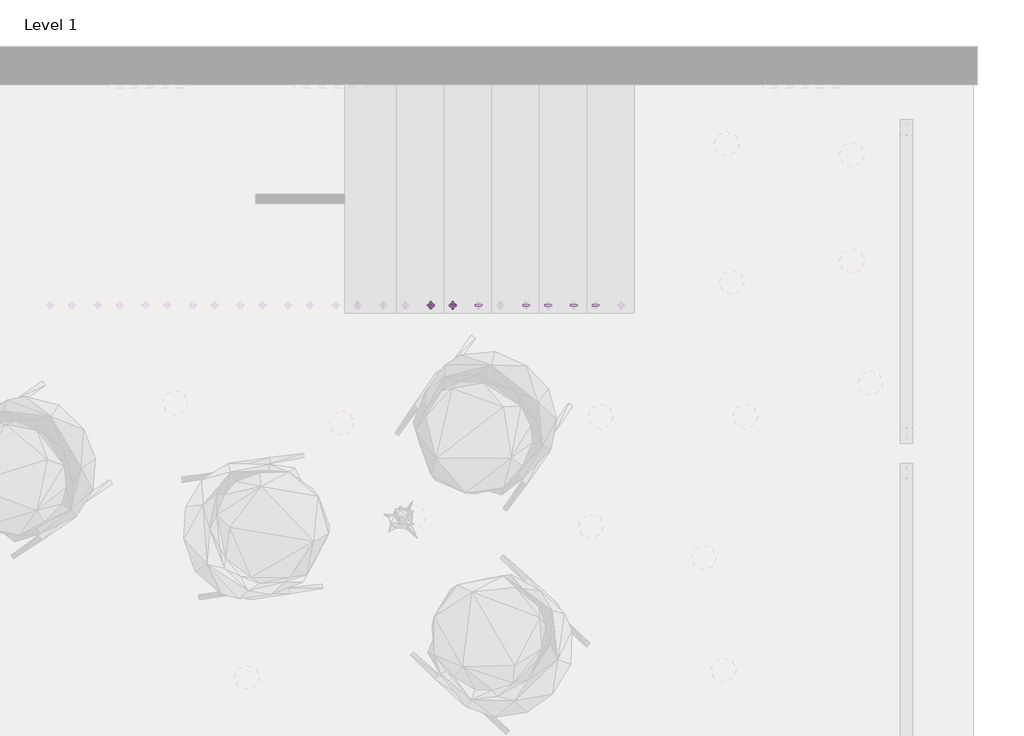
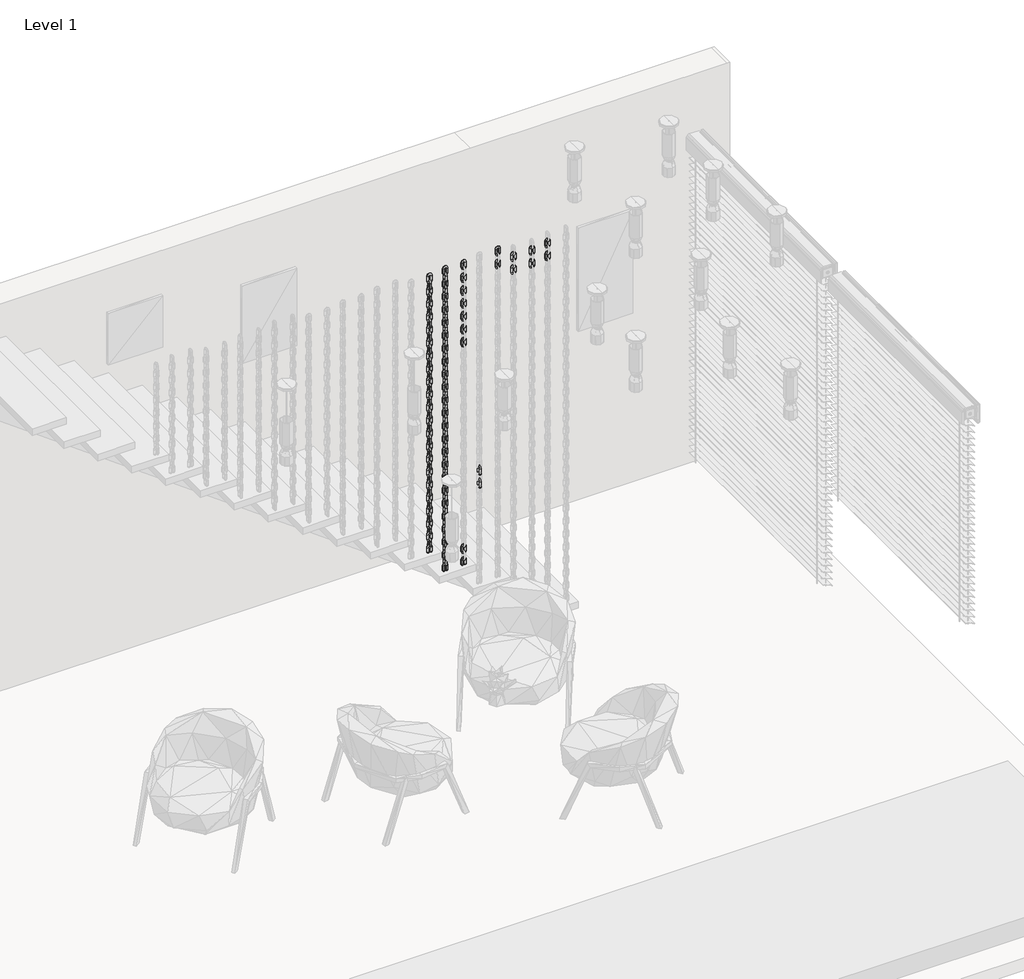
# One storey, part 11 of 12: 109 proxies.
"""IFC4 building model written with IfcOpenShell, lengths in millimetres."""

from ifc_helpers import new_model, si_unit, origin, place, context, project, spatial, transform, mapped, element, save
from components import family1_family1_50133a43, family1_family1_d3af85bb

model = new_model("IFC4")

# Units and contexts
model_context = context("Model", 3, world=origin())
ifc_project = project(units=[si_unit("LENGTHUNIT", "METRE", prefix="MILLI")], contexts=[model_context])

# Site, building, storey
site = spatial("IfcSite", under=ifc_project)
building = spatial("IfcBuilding", under=site)
storey = spatial("IfcBuildingStorey", under=building, Name="Level 1", Elevation=0.0)

# Proxies
placement = place(None, origin())
family1_family1_shape = family1_family1_50133a43(model_context)
element("IfcBuildingElementProxy", 1, Name="Family1 : Family1", ObjectType="Family1 : Family1", at=placement, inside=storey, context=model_context, shape_type="MappedRepresentation", body=[
    mapped(family1_family1_shape, transform((14115.1232124, 1139.760891, 112.244803), x_axis=(-0.03315618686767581, 0.0, 0.9994501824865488), y_axis=(-0.9994501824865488, 0.0, -0.03315618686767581), z_axis=(0.0, -1.0, 0.0))),
])
element("IfcBuildingElementProxy", 2, Name="Family1 : Family1", ObjectType="Family1 : Family1", at=placement, inside=storey, context=model_context, shape_type="MappedRepresentation", body=[
    mapped(family1_family1_shape, transform((14115.1232124, 1139.760891, 212.244803), x_axis=(-0.03315618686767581, 0.0, 0.9994501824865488), y_axis=(-0.9994501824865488, 0.0, -0.03315618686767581), z_axis=(0.0, -1.0, 0.0))),
])
element("IfcBuildingElementProxy", 3, Name="Family1 : Family1", ObjectType="Family1 : Family1", at=placement, inside=storey, context=model_context, shape_type="MappedRepresentation", body=[
    mapped(family1_family1_shape, transform((14115.1232124, 1139.760891, 312.244803), x_axis=(-0.03315618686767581, 0.0, 0.9994501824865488), y_axis=(-0.9994501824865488, 0.0, -0.03315618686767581), z_axis=(0.0, -1.0, 0.0))),
])
element("IfcBuildingElementProxy", 4, Name="Family1 : Family1", ObjectType="Family1 : Family1", at=placement, inside=storey, context=model_context, shape_type="MappedRepresentation", body=[
    mapped(family1_family1_shape, transform((14115.1232124, 1139.760891, 412.244803), x_axis=(-0.03315618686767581, 0.0, 0.9994501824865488), y_axis=(-0.9994501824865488, 0.0, -0.03315618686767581), z_axis=(0.0, -1.0, 0.0))),
])
element("IfcBuildingElementProxy", 5, Name="Family1 : Family1", ObjectType="Family1 : Family1", at=placement, inside=storey, context=model_context, shape_type="MappedRepresentation", body=[
    mapped(family1_family1_shape, transform((14115.1232124, 1139.760891, 512.244803), x_axis=(-0.03315618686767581, 0.0, 0.9994501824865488), y_axis=(-0.9994501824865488, 0.0, -0.03315618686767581), z_axis=(0.0, -1.0, 0.0))),
])
element("IfcBuildingElementProxy", 6, Name="Family1 : Family1", ObjectType="Family1 : Family1", at=placement, inside=storey, context=model_context, shape_type="MappedRepresentation", body=[
    mapped(family1_family1_shape, transform((14115.1232124, 1139.760891, 612.244803), x_axis=(-0.03315618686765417, 0.0, 0.9994501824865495), y_axis=(-0.9994501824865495, 0.0, -0.03315618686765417), z_axis=(0.0, -1.0, 0.0))),
])
element("IfcBuildingElementProxy", 7, Name="Family1 : Family1", ObjectType="Family1 : Family1", at=placement, inside=storey, context=model_context, shape_type="MappedRepresentation", body=[
    mapped(family1_family1_shape, transform((14115.1232124, 1139.760891, 712.244803), x_axis=(-0.03315618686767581, 0.0, 0.9994501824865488), y_axis=(-0.9994501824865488, 0.0, -0.03315618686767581), z_axis=(0.0, -1.0, 0.0))),
])
element("IfcBuildingElementProxy", 8, Name="Family1 : Family1", ObjectType="Family1 : Family1", at=placement, inside=storey, context=model_context, shape_type="MappedRepresentation", body=[
    mapped(family1_family1_shape, transform((14115.1232124, 1139.760891, 812.244803), x_axis=(-0.03315618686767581, 0.0, 0.9994501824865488), y_axis=(-0.9994501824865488, 0.0, -0.03315618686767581), z_axis=(0.0, -1.0, 0.0))),
])
element("IfcBuildingElementProxy", 9, Name="Family1 : Family1", ObjectType="Family1 : Family1", at=placement, inside=storey, context=model_context, shape_type="MappedRepresentation", body=[
    mapped(family1_family1_shape, transform((14115.1232124, 1139.760891, 912.244803), x_axis=(-0.03315618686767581, 0.0, 0.9994501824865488), y_axis=(-0.9994501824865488, 0.0, -0.03315618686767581), z_axis=(0.0, -1.0, 0.0))),
])
element("IfcBuildingElementProxy", 10, Name="Family1 : Family1", ObjectType="Family1 : Family1", at=placement, inside=storey, context=model_context, shape_type="MappedRepresentation", body=[
    mapped(family1_family1_shape, transform((14115.1232124, 1139.760891, 1012.244803), x_axis=(-0.03315618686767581, 0.0, 0.9994501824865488), y_axis=(-0.9994501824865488, 0.0, -0.03315618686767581), z_axis=(0.0, -1.0, 0.0))),
])
element("IfcBuildingElementProxy", 11, Name="Family1 : Family1", ObjectType="Family1 : Family1", at=placement, inside=storey, context=model_context, shape_type="MappedRepresentation", body=[
    mapped(family1_family1_shape, transform((14115.1232124, 1139.760891, 12.244803), x_axis=(-0.03315618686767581, 0.0, 0.9994501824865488), y_axis=(-0.9994501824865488, 0.0, -0.03315618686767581), z_axis=(0.0, -1.0, 0.0))),
])
element("IfcBuildingElementProxy", 12, Name="Family1 : Family1", ObjectType="Family1 : Family1", at=placement, inside=storey, context=model_context, shape_type="MappedRepresentation", body=[
    mapped(family1_family1_shape, transform((14115.1232124, 1139.760891, -87.755197), x_axis=(-0.03315618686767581, 0.0, 0.9994501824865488), y_axis=(-0.9994501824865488, 0.0, -0.03315618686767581), z_axis=(0.0, -1.0, 0.0))),
])
element("IfcBuildingElementProxy", 13, Name="Family1 : Family1", ObjectType="Family1 : Family1", at=placement, inside=storey, context=model_context, shape_type="MappedRepresentation", body=[
    mapped(family1_family1_shape, transform((14115.1232124, 1139.760891, -187.755197), x_axis=(-0.03315618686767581, 0.0, 0.9994501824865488), y_axis=(-0.9994501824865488, 0.0, -0.03315618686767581), z_axis=(0.0, -1.0, 0.0))),
])
element("IfcBuildingElementProxy", 14, Name="Family1 : Family1", ObjectType="Family1 : Family1", at=placement, inside=storey, context=model_context, shape_type="MappedRepresentation", body=[
    mapped(family1_family1_shape, transform((14115.1232124, 1139.760891, -287.755197), x_axis=(-0.03315618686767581, 0.0, 0.9994501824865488), y_axis=(-0.9994501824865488, 0.0, -0.03315618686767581), z_axis=(0.0, -1.0, 0.0))),
])
element("IfcBuildingElementProxy", 15, Name="Family1 : Family1", ObjectType="Family1 : Family1", at=placement, inside=storey, context=model_context, shape_type="MappedRepresentation", body=[
    mapped(family1_family1_shape, transform((14115.1232124, 1139.760891, -387.755197), x_axis=(-0.03315618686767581, 0.0, 0.9994501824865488), y_axis=(-0.9994501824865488, 0.0, -0.03315618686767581), z_axis=(0.0, -1.0, 0.0))),
])
element("IfcBuildingElementProxy", 16, Name="Family1 : Family1", ObjectType="Family1 : Family1", at=placement, inside=storey, context=model_context, shape_type="MappedRepresentation", body=[
    mapped(family1_family1_shape, transform((14115.1232124, 1139.760891, -487.755197), x_axis=(-0.03315618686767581, 0.0, 0.9994501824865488), y_axis=(-0.9994501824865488, 0.0, -0.03315618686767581), z_axis=(0.0, -1.0, 0.0))),
])
element("IfcBuildingElementProxy", 17, Name="Family1 : Family1", ObjectType="Family1 : Family1", at=placement, inside=storey, context=model_context, shape_type="MappedRepresentation", body=[
    mapped(family1_family1_shape, transform((14115.1232124, 1139.760891, 1112.244803), x_axis=(-0.03315618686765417, 0.0, 0.9994501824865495), y_axis=(-0.9994501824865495, 0.0, -0.03315618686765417), z_axis=(0.0, -1.0, 0.0))),
])
element("IfcBuildingElementProxy", 18, Name="Family1 : Family1", ObjectType="Family1 : Family1", at=placement, inside=storey, context=model_context, shape_type="MappedRepresentation", body=[
    mapped(family1_family1_shape, transform((14115.1232124, 1139.760891, 1212.244803), x_axis=(-0.03315618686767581, 0.0, 0.9994501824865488), y_axis=(-0.9994501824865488, 0.0, -0.03315618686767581), z_axis=(0.0, -1.0, 0.0))),
])
element("IfcBuildingElementProxy", 19, Name="Family1 : Family1", ObjectType="Family1 : Family1", at=placement, inside=storey, context=model_context, shape_type="MappedRepresentation", body=[
    mapped(family1_family1_shape, transform((14115.1232124, 1139.760891, 1312.244803), x_axis=(-0.03315618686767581, 0.0, 0.9994501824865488), y_axis=(-0.9994501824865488, 0.0, -0.03315618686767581), z_axis=(0.0, -1.0, 0.0))),
])
element("IfcBuildingElementProxy", 20, Name="Family1 : Family1", ObjectType="Family1 : Family1", at=placement, inside=storey, context=model_context, shape_type="MappedRepresentation", body=[
    mapped(family1_family1_shape, transform((14115.1232124, 1139.760891, 1412.244803), x_axis=(-0.03315618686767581, 0.0, 0.9994501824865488), y_axis=(-0.9994501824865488, 0.0, -0.03315618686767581), z_axis=(0.0, -1.0, 0.0))),
])
element("IfcBuildingElementProxy", 21, Name="Family1 : Family1", ObjectType="Family1 : Family1", at=placement, inside=storey, context=model_context, shape_type="MappedRepresentation", body=[
    mapped(family1_family1_shape, transform((14115.1232124, 1139.760891, 1512.244803), x_axis=(-0.03315618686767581, 0.0, 0.9994501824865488), y_axis=(-0.9994501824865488, 0.0, -0.03315618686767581), z_axis=(0.0, -1.0, 0.0))),
])
element("IfcBuildingElementProxy", 22, Name="Family1 : Family1", ObjectType="Family1 : Family1", at=placement, inside=storey, context=model_context, shape_type="MappedRepresentation", body=[
    mapped(family1_family1_shape, transform((14115.1232124, 1139.760891, 1612.244803), x_axis=(-0.03315618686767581, 0.0, 0.9994501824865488), y_axis=(-0.9994501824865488, 0.0, -0.03315618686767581), z_axis=(0.0, -1.0, 0.0))),
])
element("IfcBuildingElementProxy", 23, Name="Family1 : Family1", ObjectType="Family1 : Family1", at=placement, inside=storey, context=model_context, shape_type="MappedRepresentation", body=[
    mapped(family1_family1_shape, transform((14115.1232124, 1139.760891, 1712.244803), x_axis=(-0.03315618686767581, 0.0, 0.9994501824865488), y_axis=(-0.9994501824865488, 0.0, -0.03315618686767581), z_axis=(0.0, -1.0, 0.0))),
])
element("IfcBuildingElementProxy", 24, Name="Family1 : Family1", ObjectType="Family1 : Family1", at=placement, inside=storey, context=model_context, shape_type="MappedRepresentation", body=[
    mapped(family1_family1_shape, transform((14000.1232124, 1139.760891, 194.5977442), x_axis=(-0.033156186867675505, 0.0, 0.9994501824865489), y_axis=(-0.9994501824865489, 0.0, -0.033156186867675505), z_axis=(0.0, -1.0, 0.0))),
])
element("IfcBuildingElementProxy", 25, Name="Family1 : Family1", ObjectType="Family1 : Family1", at=placement, inside=storey, context=model_context, shape_type="MappedRepresentation", body=[
    mapped(family1_family1_shape, transform((14000.1232124, 1139.760891, 294.5977442), x_axis=(-0.03315618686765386, 0.0, 0.9994501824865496), y_axis=(-0.9994501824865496, 0.0, -0.03315618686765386), z_axis=(0.0, -1.0, 0.0))),
])
element("IfcBuildingElementProxy", 26, Name="Family1 : Family1", ObjectType="Family1 : Family1", at=placement, inside=storey, context=model_context, shape_type="MappedRepresentation", body=[
    mapped(family1_family1_shape, transform((14000.1232124, 1139.760891, 394.5977442), x_axis=(-0.033156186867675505, 0.0, 0.9994501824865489), y_axis=(-0.9994501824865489, 0.0, -0.033156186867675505), z_axis=(0.0, -1.0, 0.0))),
])
element("IfcBuildingElementProxy", 27, Name="Family1 : Family1", ObjectType="Family1 : Family1", at=placement, inside=storey, context=model_context, shape_type="MappedRepresentation", body=[
    mapped(family1_family1_shape, transform((14000.1232124, 1139.760891, 494.5977442), x_axis=(-0.033156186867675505, 0.0, 0.9994501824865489), y_axis=(-0.9994501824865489, 0.0, -0.033156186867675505), z_axis=(0.0, -1.0, 0.0))),
])
element("IfcBuildingElementProxy", 28, Name="Family1 : Family1", ObjectType="Family1 : Family1", at=placement, inside=storey, context=model_context, shape_type="MappedRepresentation", body=[
    mapped(family1_family1_shape, transform((14000.1232124, 1139.760891, 594.5977442), x_axis=(-0.033156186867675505, 0.0, 0.9994501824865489), y_axis=(-0.9994501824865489, 0.0, -0.033156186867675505), z_axis=(0.0, -1.0, 0.0))),
])
element("IfcBuildingElementProxy", 29, Name="Family1 : Family1", ObjectType="Family1 : Family1", at=placement, inside=storey, context=model_context, shape_type="MappedRepresentation", body=[
    mapped(family1_family1_shape, transform((14000.1232124, 1139.760891, 694.5977442), x_axis=(-0.03315618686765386, 0.0, 0.9994501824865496), y_axis=(-0.9994501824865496, 0.0, -0.03315618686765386), z_axis=(0.0, -1.0, 0.0))),
])
element("IfcBuildingElementProxy", 30, Name="Family1 : Family1", ObjectType="Family1 : Family1", at=placement, inside=storey, context=model_context, shape_type="MappedRepresentation", body=[
    mapped(family1_family1_shape, transform((14000.1232124, 1139.760891, 794.5977442), x_axis=(-0.033156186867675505, 0.0, 0.9994501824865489), y_axis=(-0.9994501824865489, 0.0, -0.033156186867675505), z_axis=(0.0, -1.0, 0.0))),
])
element("IfcBuildingElementProxy", 31, Name="Family1 : Family1", ObjectType="Family1 : Family1", at=placement, inside=storey, context=model_context, shape_type="MappedRepresentation", body=[
    mapped(family1_family1_shape, transform((14000.1232124, 1139.760891, 894.5977442), x_axis=(-0.033156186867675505, 0.0, 0.9994501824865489), y_axis=(-0.9994501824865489, 0.0, -0.033156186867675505), z_axis=(0.0, -1.0, 0.0))),
])
element("IfcBuildingElementProxy", 32, Name="Family1 : Family1", ObjectType="Family1 : Family1", at=placement, inside=storey, context=model_context, shape_type="MappedRepresentation", body=[
    mapped(family1_family1_shape, transform((14000.1232124, 1139.760891, 994.5977442), x_axis=(-0.033156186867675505, 0.0, 0.9994501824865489), y_axis=(-0.9994501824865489, 0.0, -0.033156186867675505), z_axis=(0.0, -1.0, 0.0))),
])
element("IfcBuildingElementProxy", 33, Name="Family1 : Family1", ObjectType="Family1 : Family1", at=placement, inside=storey, context=model_context, shape_type="MappedRepresentation", body=[
    mapped(family1_family1_shape, transform((14000.1232124, 1139.760891, 1094.5977442), x_axis=(-0.033156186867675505, 0.0, 0.9994501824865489), y_axis=(-0.9994501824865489, 0.0, -0.033156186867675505), z_axis=(0.0, -1.0, 0.0))),
])
element("IfcBuildingElementProxy", 34, Name="Family1 : Family1", ObjectType="Family1 : Family1", at=placement, inside=storey, context=model_context, shape_type="MappedRepresentation", body=[
    mapped(family1_family1_shape, transform((14000.1232124, 1139.760891, 94.5977442), x_axis=(-0.033156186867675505, 0.0, 0.9994501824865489), y_axis=(-0.9994501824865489, 0.0, -0.033156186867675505), z_axis=(0.0, -1.0, 0.0))),
])
element("IfcBuildingElementProxy", 35, Name="Family1 : Family1", ObjectType="Family1 : Family1", at=placement, inside=storey, context=model_context, shape_type="MappedRepresentation", body=[
    mapped(family1_family1_shape, transform((14000.1232124, 1139.760891, -5.4022558), x_axis=(-0.033156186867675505, 0.0, 0.9994501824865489), y_axis=(-0.9994501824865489, 0.0, -0.033156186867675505), z_axis=(0.0, -1.0, 0.0))),
])
element("IfcBuildingElementProxy", 36, Name="Family1 : Family1", ObjectType="Family1 : Family1", at=placement, inside=storey, context=model_context, shape_type="MappedRepresentation", body=[
    mapped(family1_family1_shape, transform((14000.1232124, 1139.760891, -105.4022558), x_axis=(-0.033156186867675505, 0.0, 0.9994501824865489), y_axis=(-0.9994501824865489, 0.0, -0.033156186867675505), z_axis=(0.0, -1.0, 0.0))),
])
element("IfcBuildingElementProxy", 37, Name="Family1 : Family1", ObjectType="Family1 : Family1", at=placement, inside=storey, context=model_context, shape_type="MappedRepresentation", body=[
    mapped(family1_family1_shape, transform((14000.1232124, 1139.760891, -205.4022558), x_axis=(-0.033156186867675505, 0.0, 0.9994501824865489), y_axis=(-0.9994501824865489, 0.0, -0.033156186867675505), z_axis=(0.0, -1.0, 0.0))),
])
element("IfcBuildingElementProxy", 38, Name="Family1 : Family1", ObjectType="Family1 : Family1", at=placement, inside=storey, context=model_context, shape_type="MappedRepresentation", body=[
    mapped(family1_family1_shape, transform((14000.1232124, 1139.760891, -305.4022558), x_axis=(-0.033156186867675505, 0.0, 0.9994501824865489), y_axis=(-0.9994501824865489, 0.0, -0.033156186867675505), z_axis=(0.0, -1.0, 0.0))),
])
element("IfcBuildingElementProxy", 39, Name="Family1 : Family1", ObjectType="Family1 : Family1", at=placement, inside=storey, context=model_context, shape_type="MappedRepresentation", body=[
    mapped(family1_family1_shape, transform((14000.1232124, 1139.760891, 1194.5977442), x_axis=(-0.033156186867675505, 0.0, 0.9994501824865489), y_axis=(-0.9994501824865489, 0.0, -0.033156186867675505), z_axis=(0.0, -1.0, 0.0))),
])
element("IfcBuildingElementProxy", 40, Name="Family1 : Family1", ObjectType="Family1 : Family1", at=placement, inside=storey, context=model_context, shape_type="MappedRepresentation", body=[
    mapped(family1_family1_shape, transform((14000.1232124, 1139.760891, 1294.5977442), x_axis=(-0.033156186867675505, 0.0, 0.9994501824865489), y_axis=(-0.9994501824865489, 0.0, -0.033156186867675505), z_axis=(0.0, -1.0, 0.0))),
])
element("IfcBuildingElementProxy", 41, Name="Family1 : Family1", ObjectType="Family1 : Family1", at=placement, inside=storey, context=model_context, shape_type="MappedRepresentation", body=[
    mapped(family1_family1_shape, transform((14000.1232124, 1139.760891, 1394.5977442), x_axis=(-0.033156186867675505, 0.0, 0.9994501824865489), y_axis=(-0.9994501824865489, 0.0, -0.033156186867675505), z_axis=(0.0, -1.0, 0.0))),
])
element("IfcBuildingElementProxy", 42, Name="Family1 : Family1", ObjectType="Family1 : Family1", at=placement, inside=storey, context=model_context, shape_type="MappedRepresentation", body=[
    mapped(family1_family1_shape, transform((14000.1232124, 1139.760891, 1494.5977442), x_axis=(-0.033156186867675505, 0.0, 0.9994501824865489), y_axis=(-0.9994501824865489, 0.0, -0.033156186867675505), z_axis=(0.0, -1.0, 0.0))),
])
element("IfcBuildingElementProxy", 43, Name="Family1 : Family1", ObjectType="Family1 : Family1", at=placement, inside=storey, context=model_context, shape_type="MappedRepresentation", body=[
    mapped(family1_family1_shape, transform((14000.1232124, 1139.760891, 1594.5977442), x_axis=(-0.03315618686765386, 0.0, 0.9994501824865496), y_axis=(-0.9994501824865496, 0.0, -0.03315618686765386), z_axis=(0.0, -1.0, 0.0))),
])
element("IfcBuildingElementProxy", 44, Name="Family1 : Family1", ObjectType="Family1 : Family1", at=placement, inside=storey, context=model_context, shape_type="MappedRepresentation", body=[
    mapped(family1_family1_shape, transform((14000.1232124, 1139.760891, 1694.5977442), x_axis=(-0.033156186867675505, 0.0, 0.9994501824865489), y_axis=(-0.9994501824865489, 0.0, -0.033156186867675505), z_axis=(0.0, -1.0, 0.0))),
])
element("IfcBuildingElementProxy", 45, Name="Family1 : Family1", ObjectType="Family1 : Family1", at=placement, inside=storey, context=model_context, shape_type="MappedRepresentation", body=[
    mapped(family1_family1_shape, transform((14365.1232124, 1139.760891, 29.8918618), x_axis=(-0.033156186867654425, 0.0, 0.9994501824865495), y_axis=(-0.9994501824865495, 0.0, -0.033156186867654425), z_axis=(0.0, -1.0, 0.0))),
])
element("IfcBuildingElementProxy", 46, Name="Family1 : Family1", ObjectType="Family1 : Family1", at=placement, inside=storey, context=model_context, shape_type="MappedRepresentation", body=[
    mapped(family1_family1_shape, transform((14365.1232124, 1139.760891, 129.8918618), x_axis=(-0.03315618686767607, 0.0, 0.9994501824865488), y_axis=(-0.9994501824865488, 0.0, -0.03315618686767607), z_axis=(0.0, -1.0, 0.0))),
])
family1_family1_2_shape = family1_family1_d3af85bb(model_context)
element("IfcBuildingElementProxy", 47, Name="Family1 : Family1", ObjectType="Family1 : Family1", at=placement, inside=storey, context=model_context, shape_type="MappedRepresentation", body=[
    mapped(family1_family1_2_shape, transform((14250.1232124, 1139.760891, -437.755197), x_axis=(-0.03315618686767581, 0.0, 0.9994501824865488), y_axis=(-0.9994501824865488, 0.0, -0.03315618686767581), z_axis=(0.0, -1.0, 0.0))),
])
element("IfcBuildingElementProxy", 48, Name="Family1 : Family1", ObjectType="Family1 : Family1", at=placement, inside=storey, context=model_context, shape_type="MappedRepresentation", body=[
    mapped(family1_family1_2_shape, transform((14250.1232124, 1139.760891, -537.755197), x_axis=(-0.03315618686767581, 0.0, 0.9994501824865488), y_axis=(-0.9994501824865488, 0.0, -0.03315618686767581), z_axis=(0.0, -1.0, 0.0))),
])
element("IfcBuildingElementProxy", 49, Name="Family1 : Family1", ObjectType="Family1 : Family1", at=placement, inside=storey, context=model_context, shape_type="MappedRepresentation", body=[
    mapped(family1_family1_2_shape, transform((14250.1232124, 1139.760891, 1162.244803), x_axis=(-0.03315618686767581, 0.0, 0.9994501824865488), y_axis=(-0.9994501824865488, 0.0, -0.03315618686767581), z_axis=(0.0, -1.0, 0.0))),
])
element("IfcBuildingElementProxy", 50, Name="Family1 : Family1", ObjectType="Family1 : Family1", at=placement, inside=storey, context=model_context, shape_type="MappedRepresentation", body=[
    mapped(family1_family1_2_shape, transform((14250.1232124, 1139.760891, 1262.244803), x_axis=(-0.03315618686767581, 0.0, 0.9994501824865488), y_axis=(-0.9994501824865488, 0.0, -0.03315618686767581), z_axis=(0.0, -1.0, 0.0))),
])
element("IfcBuildingElementProxy", 51, Name="Family1 : Family1", ObjectType="Family1 : Family1", at=placement, inside=storey, context=model_context, shape_type="MappedRepresentation", body=[
    mapped(family1_family1_2_shape, transform((14250.1232124, 1139.760891, 1362.244803), x_axis=(-0.03315618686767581, 0.0, 0.9994501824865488), y_axis=(-0.9994501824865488, 0.0, -0.03315618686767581), z_axis=(0.0, -1.0, 0.0))),
])
element("IfcBuildingElementProxy", 52, Name="Family1 : Family1", ObjectType="Family1 : Family1", at=placement, inside=storey, context=model_context, shape_type="MappedRepresentation", body=[
    mapped(family1_family1_2_shape, transform((14250.1232124, 1139.760891, 1462.244803), x_axis=(-0.03315618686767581, 0.0, 0.9994501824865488), y_axis=(-0.9994501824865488, 0.0, -0.03315618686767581), z_axis=(0.0, -1.0, 0.0))),
])
element("IfcBuildingElementProxy", 53, Name="Family1 : Family1", ObjectType="Family1 : Family1", at=placement, inside=storey, context=model_context, shape_type="MappedRepresentation", body=[
    mapped(family1_family1_2_shape, transform((14250.1232124, 1139.760891, 1562.244803), x_axis=(-0.03315618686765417, 0.0, 0.9994501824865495), y_axis=(-0.9994501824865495, 0.0, -0.03315618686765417), z_axis=(0.0, -1.0, 0.0))),
])
element("IfcBuildingElementProxy", 54, Name="Family1 : Family1", ObjectType="Family1 : Family1", at=placement, inside=storey, context=model_context, shape_type="MappedRepresentation", body=[
    mapped(family1_family1_2_shape, transform((14115.1232124, 1139.760891, 162.244803), x_axis=(-0.03315618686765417, 0.0, 0.9994501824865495), y_axis=(-0.9994501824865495, 0.0, -0.03315618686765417), z_axis=(0.0, -1.0, 0.0))),
])
element("IfcBuildingElementProxy", 55, Name="Family1 : Family1", ObjectType="Family1 : Family1", at=placement, inside=storey, context=model_context, shape_type="MappedRepresentation", body=[
    mapped(family1_family1_2_shape, transform((14115.1232124, 1139.760891, 262.244803), x_axis=(-0.03315618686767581, 0.0, 0.9994501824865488), y_axis=(-0.9994501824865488, 0.0, -0.03315618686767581), z_axis=(0.0, -1.0, 0.0))),
])
element("IfcBuildingElementProxy", 56, Name="Family1 : Family1", ObjectType="Family1 : Family1", at=placement, inside=storey, context=model_context, shape_type="MappedRepresentation", body=[
    mapped(family1_family1_2_shape, transform((14115.1232124, 1139.760891, 362.244803), x_axis=(-0.03315618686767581, 0.0, 0.9994501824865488), y_axis=(-0.9994501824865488, 0.0, -0.03315618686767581), z_axis=(0.0, -1.0, 0.0))),
])
element("IfcBuildingElementProxy", 57, Name="Family1 : Family1", ObjectType="Family1 : Family1", at=placement, inside=storey, context=model_context, shape_type="MappedRepresentation", body=[
    mapped(family1_family1_2_shape, transform((14115.1232124, 1139.760891, 462.244803), x_axis=(-0.03315618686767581, 0.0, 0.9994501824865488), y_axis=(-0.9994501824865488, 0.0, -0.03315618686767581), z_axis=(0.0, -1.0, 0.0))),
])
element("IfcBuildingElementProxy", 58, Name="Family1 : Family1", ObjectType="Family1 : Family1", at=placement, inside=storey, context=model_context, shape_type="MappedRepresentation", body=[
    mapped(family1_family1_2_shape, transform((14115.1232124, 1139.760891, 562.244803), x_axis=(-0.03315618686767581, 0.0, 0.9994501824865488), y_axis=(-0.9994501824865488, 0.0, -0.03315618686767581), z_axis=(0.0, -1.0, 0.0))),
])
element("IfcBuildingElementProxy", 59, Name="Family1 : Family1", ObjectType="Family1 : Family1", at=placement, inside=storey, context=model_context, shape_type="MappedRepresentation", body=[
    mapped(family1_family1_2_shape, transform((14115.1232124, 1139.760891, 662.244803), x_axis=(-0.03315618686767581, 0.0, 0.9994501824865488), y_axis=(-0.9994501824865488, 0.0, -0.03315618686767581), z_axis=(0.0, -1.0, 0.0))),
])
element("IfcBuildingElementProxy", 60, Name="Family1 : Family1", ObjectType="Family1 : Family1", at=placement, inside=storey, context=model_context, shape_type="MappedRepresentation", body=[
    mapped(family1_family1_2_shape, transform((14115.1232124, 1139.760891, 762.244803), x_axis=(-0.03315618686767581, 0.0, 0.9994501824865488), y_axis=(-0.9994501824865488, 0.0, -0.03315618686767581), z_axis=(0.0, -1.0, 0.0))),
])
element("IfcBuildingElementProxy", 61, Name="Family1 : Family1", ObjectType="Family1 : Family1", at=placement, inside=storey, context=model_context, shape_type="MappedRepresentation", body=[
    mapped(family1_family1_2_shape, transform((14115.1232124, 1139.760891, 862.244803), x_axis=(-0.03315618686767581, 0.0, 0.9994501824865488), y_axis=(-0.9994501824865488, 0.0, -0.03315618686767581), z_axis=(0.0, -1.0, 0.0))),
])
element("IfcBuildingElementProxy", 62, Name="Family1 : Family1", ObjectType="Family1 : Family1", at=placement, inside=storey, context=model_context, shape_type="MappedRepresentation", body=[
    mapped(family1_family1_2_shape, transform((14115.1232124, 1139.760891, 962.244803), x_axis=(-0.03315618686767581, 0.0, 0.9994501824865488), y_axis=(-0.9994501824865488, 0.0, -0.03315618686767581), z_axis=(0.0, -1.0, 0.0))),
])
element("IfcBuildingElementProxy", 63, Name="Family1 : Family1", ObjectType="Family1 : Family1", at=placement, inside=storey, context=model_context, shape_type="MappedRepresentation", body=[
    mapped(family1_family1_2_shape, transform((14115.1232124, 1139.760891, 1062.244803), x_axis=(-0.03315618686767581, 0.0, 0.9994501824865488), y_axis=(-0.9994501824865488, 0.0, -0.03315618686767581), z_axis=(0.0, -1.0, 0.0))),
])
element("IfcBuildingElementProxy", 64, Name="Family1 : Family1", ObjectType="Family1 : Family1", at=placement, inside=storey, context=model_context, shape_type="MappedRepresentation", body=[
    mapped(family1_family1_2_shape, transform((14115.1232124, 1139.760891, 62.244803), x_axis=(-0.03315618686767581, 0.0, 0.9994501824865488), y_axis=(-0.9994501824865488, 0.0, -0.03315618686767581), z_axis=(0.0, -1.0, 0.0))),
])
element("IfcBuildingElementProxy", 65, Name="Family1 : Family1", ObjectType="Family1 : Family1", at=placement, inside=storey, context=model_context, shape_type="MappedRepresentation", body=[
    mapped(family1_family1_2_shape, transform((14115.1232124, 1139.760891, -37.755197), x_axis=(-0.03315618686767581, 0.0, 0.9994501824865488), y_axis=(-0.9994501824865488, 0.0, -0.03315618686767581), z_axis=(0.0, -1.0, 0.0))),
])
element("IfcBuildingElementProxy", 66, Name="Family1 : Family1", ObjectType="Family1 : Family1", at=placement, inside=storey, context=model_context, shape_type="MappedRepresentation", body=[
    mapped(family1_family1_2_shape, transform((14115.1232124, 1139.760891, -137.755197), x_axis=(-0.03315618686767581, 0.0, 0.9994501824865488), y_axis=(-0.9994501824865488, 0.0, -0.03315618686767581), z_axis=(0.0, -1.0, 0.0))),
])
element("IfcBuildingElementProxy", 67, Name="Family1 : Family1", ObjectType="Family1 : Family1", at=placement, inside=storey, context=model_context, shape_type="MappedRepresentation", body=[
    mapped(family1_family1_2_shape, transform((14115.1232124, 1139.760891, -237.755197), x_axis=(-0.03315618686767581, 0.0, 0.9994501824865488), y_axis=(-0.9994501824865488, 0.0, -0.03315618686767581), z_axis=(0.0, -1.0, 0.0))),
])
element("IfcBuildingElementProxy", 68, Name="Family1 : Family1", ObjectType="Family1 : Family1", at=placement, inside=storey, context=model_context, shape_type="MappedRepresentation", body=[
    mapped(family1_family1_2_shape, transform((14115.1232124, 1139.760891, -337.755197), x_axis=(-0.03315618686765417, 0.0, 0.9994501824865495), y_axis=(-0.9994501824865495, 0.0, -0.03315618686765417), z_axis=(0.0, -1.0, 0.0))),
])
element("IfcBuildingElementProxy", 69, Name="Family1 : Family1", ObjectType="Family1 : Family1", at=placement, inside=storey, context=model_context, shape_type="MappedRepresentation", body=[
    mapped(family1_family1_2_shape, transform((14115.1232124, 1139.760891, -437.755197), x_axis=(-0.03315618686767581, 0.0, 0.9994501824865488), y_axis=(-0.9994501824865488, 0.0, -0.03315618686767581), z_axis=(0.0, -1.0, 0.0))),
])
element("IfcBuildingElementProxy", 70, Name="Family1 : Family1", ObjectType="Family1 : Family1", at=placement, inside=storey, context=model_context, shape_type="MappedRepresentation", body=[
    mapped(family1_family1_2_shape, transform((14115.1232124, 1139.760891, -537.755197), x_axis=(-0.03315618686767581, 0.0, 0.9994501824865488), y_axis=(-0.9994501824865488, 0.0, -0.03315618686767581), z_axis=(0.0, -1.0, 0.0))),
])
element("IfcBuildingElementProxy", 71, Name="Family1 : Family1", ObjectType="Family1 : Family1", at=placement, inside=storey, context=model_context, shape_type="MappedRepresentation", body=[
    mapped(family1_family1_2_shape, transform((14115.1232124, 1139.760891, 1162.244803), x_axis=(-0.03315618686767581, 0.0, 0.9994501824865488), y_axis=(-0.9994501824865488, 0.0, -0.03315618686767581), z_axis=(0.0, -1.0, 0.0))),
])
element("IfcBuildingElementProxy", 72, Name="Family1 : Family1", ObjectType="Family1 : Family1", at=placement, inside=storey, context=model_context, shape_type="MappedRepresentation", body=[
    mapped(family1_family1_2_shape, transform((14115.1232124, 1139.760891, 1262.244803), x_axis=(-0.03315618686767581, 0.0, 0.9994501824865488), y_axis=(-0.9994501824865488, 0.0, -0.03315618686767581), z_axis=(0.0, -1.0, 0.0))),
])
element("IfcBuildingElementProxy", 73, Name="Family1 : Family1", ObjectType="Family1 : Family1", at=placement, inside=storey, context=model_context, shape_type="MappedRepresentation", body=[
    mapped(family1_family1_2_shape, transform((14115.1232124, 1139.760891, 1362.244803), x_axis=(-0.03315618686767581, 0.0, 0.9994501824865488), y_axis=(-0.9994501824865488, 0.0, -0.03315618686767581), z_axis=(0.0, -1.0, 0.0))),
])
element("IfcBuildingElementProxy", 74, Name="Family1 : Family1", ObjectType="Family1 : Family1", at=placement, inside=storey, context=model_context, shape_type="MappedRepresentation", body=[
    mapped(family1_family1_2_shape, transform((14115.1232124, 1139.760891, 1462.244803), x_axis=(-0.03315618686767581, 0.0, 0.9994501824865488), y_axis=(-0.9994501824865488, 0.0, -0.03315618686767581), z_axis=(0.0, -1.0, 0.0))),
])
element("IfcBuildingElementProxy", 75, Name="Family1 : Family1", ObjectType="Family1 : Family1", at=placement, inside=storey, context=model_context, shape_type="MappedRepresentation", body=[
    mapped(family1_family1_2_shape, transform((14115.1232124, 1139.760891, 1562.244803), x_axis=(-0.03315618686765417, 0.0, 0.9994501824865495), y_axis=(-0.9994501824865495, 0.0, -0.03315618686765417), z_axis=(0.0, -1.0, 0.0))),
])
element("IfcBuildingElementProxy", 76, Name="Family1 : Family1", ObjectType="Family1 : Family1", at=placement, inside=storey, context=model_context, shape_type="MappedRepresentation", body=[
    mapped(family1_family1_2_shape, transform((14000.1232124, 1139.760891, 244.5977442), x_axis=(-0.033156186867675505, 0.0, 0.9994501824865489), y_axis=(-0.9994501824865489, 0.0, -0.033156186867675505), z_axis=(0.0, -1.0, 0.0))),
])
element("IfcBuildingElementProxy", 77, Name="Family1 : Family1", ObjectType="Family1 : Family1", at=placement, inside=storey, context=model_context, shape_type="MappedRepresentation", body=[
    mapped(family1_family1_2_shape, transform((14000.1232124, 1139.760891, 344.5977442), x_axis=(-0.033156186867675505, 0.0, 0.9994501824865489), y_axis=(-0.9994501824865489, 0.0, -0.033156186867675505), z_axis=(0.0, -1.0, 0.0))),
])
element("IfcBuildingElementProxy", 78, Name="Family1 : Family1", ObjectType="Family1 : Family1", at=placement, inside=storey, context=model_context, shape_type="MappedRepresentation", body=[
    mapped(family1_family1_2_shape, transform((14000.1232124, 1139.760891, 444.5977442), x_axis=(-0.033156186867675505, 0.0, 0.9994501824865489), y_axis=(-0.9994501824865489, 0.0, -0.033156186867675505), z_axis=(0.0, -1.0, 0.0))),
])
element("IfcBuildingElementProxy", 79, Name="Family1 : Family1", ObjectType="Family1 : Family1", at=placement, inside=storey, context=model_context, shape_type="MappedRepresentation", body=[
    mapped(family1_family1_2_shape, transform((14000.1232124, 1139.760891, 544.5977442), x_axis=(-0.033156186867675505, 0.0, 0.9994501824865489), y_axis=(-0.9994501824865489, 0.0, -0.033156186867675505), z_axis=(0.0, -1.0, 0.0))),
])
element("IfcBuildingElementProxy", 80, Name="Family1 : Family1", ObjectType="Family1 : Family1", at=placement, inside=storey, context=model_context, shape_type="MappedRepresentation", body=[
    mapped(family1_family1_2_shape, transform((14000.1232124, 1139.760891, 644.5977442), x_axis=(-0.033156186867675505, 0.0, 0.9994501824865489), y_axis=(-0.9994501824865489, 0.0, -0.033156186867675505), z_axis=(0.0, -1.0, 0.0))),
])
element("IfcBuildingElementProxy", 81, Name="Family1 : Family1", ObjectType="Family1 : Family1", at=placement, inside=storey, context=model_context, shape_type="MappedRepresentation", body=[
    mapped(family1_family1_2_shape, transform((14000.1232124, 1139.760891, 744.5977442), x_axis=(-0.033156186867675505, 0.0, 0.9994501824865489), y_axis=(-0.9994501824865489, 0.0, -0.033156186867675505), z_axis=(0.0, -1.0, 0.0))),
])
element("IfcBuildingElementProxy", 82, Name="Family1 : Family1", ObjectType="Family1 : Family1", at=placement, inside=storey, context=model_context, shape_type="MappedRepresentation", body=[
    mapped(family1_family1_2_shape, transform((14000.1232124, 1139.760891, 844.5977442), x_axis=(-0.033156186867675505, 0.0, 0.9994501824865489), y_axis=(-0.9994501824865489, 0.0, -0.033156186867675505), z_axis=(0.0, -1.0, 0.0))),
])
element("IfcBuildingElementProxy", 83, Name="Family1 : Family1", ObjectType="Family1 : Family1", at=placement, inside=storey, context=model_context, shape_type="MappedRepresentation", body=[
    mapped(family1_family1_2_shape, transform((14000.1232124, 1139.760891, 944.5977442), x_axis=(-0.033156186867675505, 0.0, 0.9994501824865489), y_axis=(-0.9994501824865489, 0.0, -0.033156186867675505), z_axis=(0.0, -1.0, 0.0))),
])
element("IfcBuildingElementProxy", 84, Name="Family1 : Family1", ObjectType="Family1 : Family1", at=placement, inside=storey, context=model_context, shape_type="MappedRepresentation", body=[
    mapped(family1_family1_2_shape, transform((14000.1232124, 1139.760891, 1044.5977442), x_axis=(-0.033156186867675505, 0.0, 0.9994501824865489), y_axis=(-0.9994501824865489, 0.0, -0.033156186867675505), z_axis=(0.0, -1.0, 0.0))),
])
element("IfcBuildingElementProxy", 85, Name="Family1 : Family1", ObjectType="Family1 : Family1", at=placement, inside=storey, context=model_context, shape_type="MappedRepresentation", body=[
    mapped(family1_family1_2_shape, transform((14000.1232124, 1139.760891, 1144.5977442), x_axis=(-0.03315618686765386, 0.0, 0.9994501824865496), y_axis=(-0.9994501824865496, 0.0, -0.03315618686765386), z_axis=(0.0, -1.0, 0.0))),
])
element("IfcBuildingElementProxy", 86, Name="Family1 : Family1", ObjectType="Family1 : Family1", at=placement, inside=storey, context=model_context, shape_type="MappedRepresentation", body=[
    mapped(family1_family1_2_shape, transform((14000.1232124, 1139.760891, 144.5977442), x_axis=(-0.033156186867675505, 0.0, 0.9994501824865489), y_axis=(-0.9994501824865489, 0.0, -0.033156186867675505), z_axis=(0.0, -1.0, 0.0))),
])
element("IfcBuildingElementProxy", 87, Name="Family1 : Family1", ObjectType="Family1 : Family1", at=placement, inside=storey, context=model_context, shape_type="MappedRepresentation", body=[
    mapped(family1_family1_2_shape, transform((14000.1232124, 1139.760891, 44.5977442), x_axis=(-0.033156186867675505, 0.0, 0.9994501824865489), y_axis=(-0.9994501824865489, 0.0, -0.033156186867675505), z_axis=(0.0, -1.0, 0.0))),
])
element("IfcBuildingElementProxy", 88, Name="Family1 : Family1", ObjectType="Family1 : Family1", at=placement, inside=storey, context=model_context, shape_type="MappedRepresentation", body=[
    mapped(family1_family1_2_shape, transform((14000.1232124, 1139.760891, -55.4022558), x_axis=(-0.033156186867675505, 0.0, 0.9994501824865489), y_axis=(-0.9994501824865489, 0.0, -0.033156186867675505), z_axis=(0.0, -1.0, 0.0))),
])
element("IfcBuildingElementProxy", 89, Name="Family1 : Family1", ObjectType="Family1 : Family1", at=placement, inside=storey, context=model_context, shape_type="MappedRepresentation", body=[
    mapped(family1_family1_2_shape, transform((14000.1232124, 1139.760891, -155.4022558), x_axis=(-0.03315618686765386, 0.0, 0.9994501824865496), y_axis=(-0.9994501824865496, 0.0, -0.03315618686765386), z_axis=(0.0, -1.0, 0.0))),
])
element("IfcBuildingElementProxy", 90, Name="Family1 : Family1", ObjectType="Family1 : Family1", at=placement, inside=storey, context=model_context, shape_type="MappedRepresentation", body=[
    mapped(family1_family1_2_shape, transform((14000.1232124, 1139.760891, -255.4022558), x_axis=(-0.033156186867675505, 0.0, 0.9994501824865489), y_axis=(-0.9994501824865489, 0.0, -0.033156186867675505), z_axis=(0.0, -1.0, 0.0))),
])
element("IfcBuildingElementProxy", 91, Name="Family1 : Family1", ObjectType="Family1 : Family1", at=placement, inside=storey, context=model_context, shape_type="MappedRepresentation", body=[
    mapped(family1_family1_2_shape, transform((14000.1232124, 1139.760891, -355.4022558), x_axis=(-0.033156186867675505, 0.0, 0.9994501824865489), y_axis=(-0.9994501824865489, 0.0, -0.033156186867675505), z_axis=(0.0, -1.0, 0.0))),
])
element("IfcBuildingElementProxy", 92, Name="Family1 : Family1", ObjectType="Family1 : Family1", at=placement, inside=storey, context=model_context, shape_type="MappedRepresentation", body=[
    mapped(family1_family1_2_shape, transform((14000.1232124, 1139.760891, 1244.5977442), x_axis=(-0.033156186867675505, 0.0, 0.9994501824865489), y_axis=(-0.9994501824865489, 0.0, -0.033156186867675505), z_axis=(0.0, -1.0, 0.0))),
])
element("IfcBuildingElementProxy", 93, Name="Family1 : Family1", ObjectType="Family1 : Family1", at=placement, inside=storey, context=model_context, shape_type="MappedRepresentation", body=[
    mapped(family1_family1_2_shape, transform((14000.1232124, 1139.760891, 1344.5977442), x_axis=(-0.033156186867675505, 0.0, 0.9994501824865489), y_axis=(-0.9994501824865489, 0.0, -0.033156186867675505), z_axis=(0.0, -1.0, 0.0))),
])
element("IfcBuildingElementProxy", 94, Name="Family1 : Family1", ObjectType="Family1 : Family1", at=placement, inside=storey, context=model_context, shape_type="MappedRepresentation", body=[
    mapped(family1_family1_2_shape, transform((14000.1232124, 1139.760891, 1444.5977442), x_axis=(-0.033156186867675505, 0.0, 0.9994501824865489), y_axis=(-0.9994501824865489, 0.0, -0.033156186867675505), z_axis=(0.0, -1.0, 0.0))),
])
element("IfcBuildingElementProxy", 95, Name="Family1 : Family1", ObjectType="Family1 : Family1", at=placement, inside=storey, context=model_context, shape_type="MappedRepresentation", body=[
    mapped(family1_family1_2_shape, transform((14000.1232124, 1139.760891, 1544.5977442), x_axis=(-0.033156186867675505, 0.0, 0.9994501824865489), y_axis=(-0.9994501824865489, 0.0, -0.033156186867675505), z_axis=(0.0, -1.0, 0.0))),
])
element("IfcBuildingElementProxy", 96, Name="Family1 : Family1", ObjectType="Family1 : Family1", at=placement, inside=storey, context=model_context, shape_type="MappedRepresentation", body=[
    mapped(family1_family1_2_shape, transform((14865.1232124, 1139.760891, 1615.1859795), x_axis=(-0.03315618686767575, 0.0, 0.9994501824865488), y_axis=(-0.9994501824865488, 0.0, -0.03315618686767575), z_axis=(0.0, -1.0, 0.0))),
])
element("IfcBuildingElementProxy", 97, Name="Family1 : Family1", ObjectType="Family1 : Family1", at=placement, inside=storey, context=model_context, shape_type="MappedRepresentation", body=[
    mapped(family1_family1_2_shape, transform((14865.1232124, 1139.760891, 1715.1859795), x_axis=(-0.03315618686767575, 0.0, 0.9994501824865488), y_axis=(-0.9994501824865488, 0.0, -0.03315618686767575), z_axis=(0.0, -1.0, 0.0))),
])
element("IfcBuildingElementProxy", 98, Name="Family1 : Family1", ObjectType="Family1 : Family1", at=placement, inside=storey, context=model_context, shape_type="MappedRepresentation", body=[
    mapped(family1_family1_2_shape, transform((14750.1232124, 1139.760891, 1597.5389206), x_axis=(-0.03315618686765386, 0.0, 0.9994501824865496), y_axis=(-0.9994501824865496, 0.0, -0.03315618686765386), z_axis=(0.0, -1.0, 0.0))),
])
element("IfcBuildingElementProxy", 99, Name="Family1 : Family1", ObjectType="Family1 : Family1", at=placement, inside=storey, context=model_context, shape_type="MappedRepresentation", body=[
    mapped(family1_family1_2_shape, transform((14750.1232124, 1139.760891, 1697.5389206), x_axis=(-0.033156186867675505, 0.0, 0.9994501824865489), y_axis=(-0.9994501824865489, 0.0, -0.033156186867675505), z_axis=(0.0, -1.0, 0.0))),
])
element("IfcBuildingElementProxy", 100, Name="Family1 : Family1", ObjectType="Family1 : Family1", at=placement, inside=storey, context=model_context, shape_type="MappedRepresentation", body=[
    mapped(family1_family1_2_shape, transform((14615.1232124, 1139.760891, 1597.5389206), x_axis=(-0.03315618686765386, 0.0, 0.9994501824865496), y_axis=(-0.9994501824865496, 0.0, -0.03315618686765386), z_axis=(0.0, -1.0, 0.0))),
])
element("IfcBuildingElementProxy", 101, Name="Family1 : Family1", ObjectType="Family1 : Family1", at=placement, inside=storey, context=model_context, shape_type="MappedRepresentation", body=[
    mapped(family1_family1_2_shape, transform((14615.1232124, 1139.760891, 1697.5389206), x_axis=(-0.033156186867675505, 0.0, 0.9994501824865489), y_axis=(-0.9994501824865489, 0.0, -0.033156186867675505), z_axis=(0.0, -1.0, 0.0))),
])
element("IfcBuildingElementProxy", 102, Name="Family1 : Family1", ObjectType="Family1 : Family1", at=placement, inside=storey, context=model_context, shape_type="MappedRepresentation", body=[
    mapped(family1_family1_2_shape, transform((14500.1232124, 1139.760891, 1679.8918618), x_axis=(-0.03315618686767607, 0.0, 0.9994501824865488), y_axis=(-0.9994501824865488, 0.0, -0.03315618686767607), z_axis=(0.0, -1.0, 0.0))),
])
element("IfcBuildingElementProxy", 103, Name="Family1 : Family1", ObjectType="Family1 : Family1", at=placement, inside=storey, context=model_context, shape_type="MappedRepresentation", body=[
    mapped(family1_family1_2_shape, transform((14500.1232124, 1139.760891, 1779.8918618), x_axis=(-0.03315618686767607, 0.0, 0.9994501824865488), y_axis=(-0.9994501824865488, 0.0, -0.03315618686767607), z_axis=(0.0, -1.0, 0.0))),
])
element("IfcBuildingElementProxy", 104, Name="Family1 : Family1", ObjectType="Family1 : Family1", at=placement, inside=storey, context=model_context, shape_type="MappedRepresentation", body=[
    mapped(family1_family1_2_shape, transform((14250.1232124, 1139.760891, 1662.244803), x_axis=(-0.03315618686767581, 0.0, 0.9994501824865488), y_axis=(-0.9994501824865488, 0.0, -0.03315618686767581), z_axis=(0.0, -1.0, 0.0))),
])
element("IfcBuildingElementProxy", 105, Name="Family1 : Family1", ObjectType="Family1 : Family1", at=placement, inside=storey, context=model_context, shape_type="MappedRepresentation", body=[
    mapped(family1_family1_2_shape, transform((14250.1232124, 1139.760891, 1762.244803), x_axis=(-0.03315618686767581, 0.0, 0.9994501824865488), y_axis=(-0.9994501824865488, 0.0, -0.03315618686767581), z_axis=(0.0, -1.0, 0.0))),
])
element("IfcBuildingElementProxy", 106, Name="Family1 : Family1", ObjectType="Family1 : Family1", at=placement, inside=storey, context=model_context, shape_type="MappedRepresentation", body=[
    mapped(family1_family1_2_shape, transform((14115.1232124, 1139.760891, 1662.244803), x_axis=(-0.03315618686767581, 0.0, 0.9994501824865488), y_axis=(-0.9994501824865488, 0.0, -0.03315618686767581), z_axis=(0.0, -1.0, 0.0))),
])
element("IfcBuildingElementProxy", 107, Name="Family1 : Family1", ObjectType="Family1 : Family1", at=placement, inside=storey, context=model_context, shape_type="MappedRepresentation", body=[
    mapped(family1_family1_2_shape, transform((14115.1232124, 1139.760891, 1762.244803), x_axis=(-0.03315618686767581, 0.0, 0.9994501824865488), y_axis=(-0.9994501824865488, 0.0, -0.03315618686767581), z_axis=(0.0, -1.0, 0.0))),
])
element("IfcBuildingElementProxy", 108, Name="Family1 : Family1", ObjectType="Family1 : Family1", at=placement, inside=storey, context=model_context, shape_type="MappedRepresentation", body=[
    mapped(family1_family1_2_shape, transform((14000.1232124, 1139.760891, 1644.5977442), x_axis=(-0.033156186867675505, 0.0, 0.9994501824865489), y_axis=(-0.9994501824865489, 0.0, -0.033156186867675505), z_axis=(0.0, -1.0, 0.0))),
])
element("IfcBuildingElementProxy", 109, Name="Family1 : Family1", ObjectType="Family1 : Family1", at=placement, inside=storey, context=model_context, shape_type="MappedRepresentation", body=[
    mapped(family1_family1_2_shape, transform((14000.1232124, 1139.760891, 1744.5977442), x_axis=(-0.033156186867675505, 0.0, 0.9994501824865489), y_axis=(-0.9994501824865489, 0.0, -0.033156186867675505), z_axis=(0.0, -1.0, 0.0))),
])

save(model, "model.ifc")
